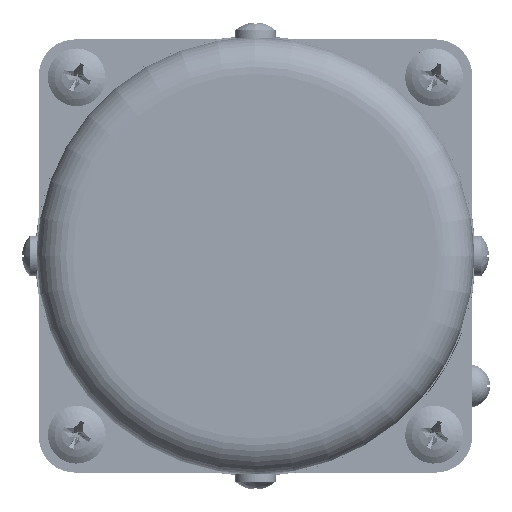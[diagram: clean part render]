
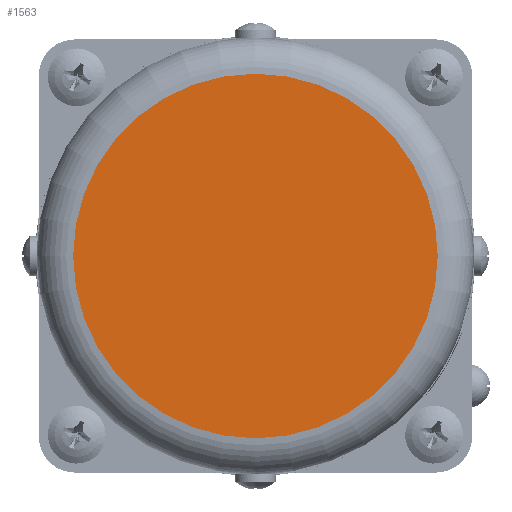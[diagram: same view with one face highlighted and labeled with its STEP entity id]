
A CAD part, left-side view. The second image highlights one B-rep face of the part: STEP entity #1563.
In plain terms, the highlighted planar face has unit normal (-1, 0, 0).
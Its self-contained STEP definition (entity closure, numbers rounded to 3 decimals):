
#999=FACE_OUTER_BOUND('',#2494,.T.);
#1276=PLANE('',#6387);
#1563=ADVANCED_FACE('',(#999),#1276,.T.);
#2494=EDGE_LOOP('',(#3199));
#3199=ORIENTED_EDGE('',*,*,#5254,.T.);
#4632=VERTEX_POINT('',#8766);
#5254=EDGE_CURVE('',#4632,#4632,#6021,.T.);
#6021=CIRCLE('',#6386,25.25);
#6386=AXIS2_PLACEMENT_3D('',#8765,#7079,#7080);
#6387=AXIS2_PLACEMENT_3D('',#8767,#7081,#7082);
#7079=DIRECTION('',(-1.,0.,0.));
#7080=DIRECTION('',(0.,-1.,0.));
#7081=DIRECTION('',(-1.,0.,0.));
#7082=DIRECTION('',(0.,-1.,0.));
#8765=CARTESIAN_POINT('',(-111.,0.,0.));
#8766=CARTESIAN_POINT('',(-111.,-25.25,0.));
#8767=CARTESIAN_POINT('',(-111.,0.,0.));
